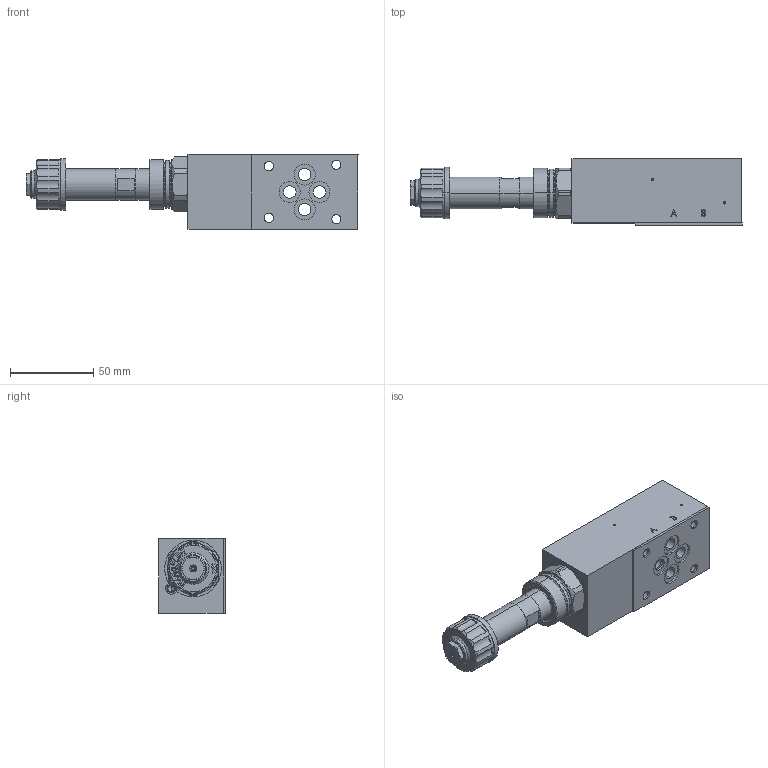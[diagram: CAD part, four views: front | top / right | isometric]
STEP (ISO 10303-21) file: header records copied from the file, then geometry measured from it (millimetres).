
FILE_DESCRIPTION (( 'STEP AP214' ), '1' );
FILE_NAME ('DNPSA06-A.STEP', '2017-04-19T12:06:59', ( '' ), ( '' ), 'SwSTEP 2.0', 'SolidWorks 2016', '' );
FILE_SCHEMA (( 'AUTOMOTIVE_DESIGN' ));
Length unit declared in the file: millimetre
Products named in the file (1): DNPSA06-A
Bounding box: 199.2 x 39.75 x 45 mm (x, y, z)
Volume: 211223.4 mm3; surface area: 42376.8 mm2
Topology: 2 solids, 4 shells, 432 faces, 1106 edges, 715 vertices
Faces by surface type: plane 214, cylinder 115, cone 62, bspline 25, torus 12, sphere 4
Entity records: 19597 total; most frequent: CARTESIAN_POINT 4309, ORIENTED_EDGE 2200, DIRECTION 2137, EDGE_CURVE 1100, AXIS2_PLACEMENT_3D 761, VERTEX_POINT 715, VECTOR 615, LINE 615
